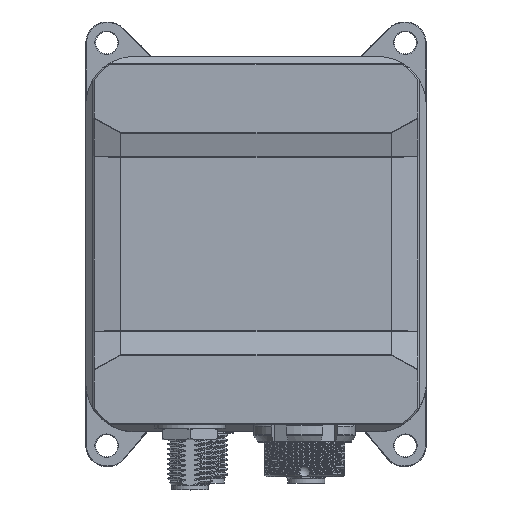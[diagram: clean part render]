
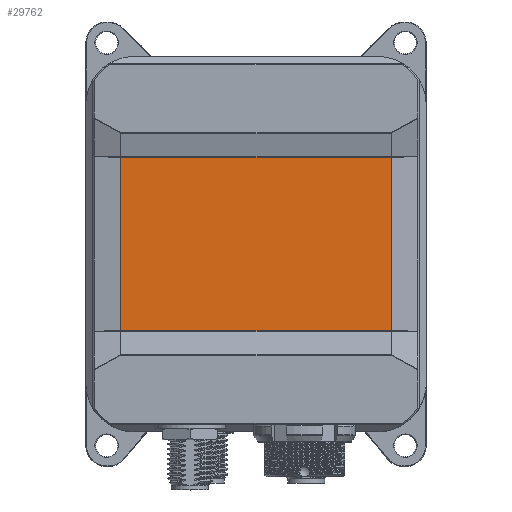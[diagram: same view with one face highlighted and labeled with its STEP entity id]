
A CAD part, top view. The second image highlights one B-rep face of the part: STEP entity #29762.
In plain terms, the highlighted planar face has unit normal (0, 0, 1) as drawn and (0, -1, 0) by its records, which use the part's own axes.
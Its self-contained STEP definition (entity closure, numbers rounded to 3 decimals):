
#2843=FACE_OUTER_BOUND('',#4605,.T.);
#4605=EDGE_LOOP('',(#19641,#19642,#19643,#19644));
#6457=LINE('',#43536,#8486);
#6459=LINE('',#43545,#8488);
#6460=LINE('',#43546,#8489);
#6461=LINE('',#43547,#8490);
#8486=VECTOR('',#34994,10.);
#8488=VECTOR('',#35002,10.);
#8489=VECTOR('',#35003,10.);
#8490=VECTOR('',#35004,10.);
#11839=VERTEX_POINT('',#43534);
#11840=VERTEX_POINT('',#43535);
#11843=VERTEX_POINT('',#43543);
#11844=VERTEX_POINT('',#43544);
#14905=EDGE_CURVE('',#11839,#11840,#6457,.T.);
#14909=EDGE_CURVE('',#11843,#11844,#6459,.T.);
#14910=EDGE_CURVE('',#11840,#11843,#6460,.T.);
#14911=EDGE_CURVE('',#11844,#11839,#6461,.T.);
#19641=ORIENTED_EDGE('',*,*,#14909,.F.);
#19642=ORIENTED_EDGE('',*,*,#14910,.F.);
#19643=ORIENTED_EDGE('',*,*,#14905,.F.);
#19644=ORIENTED_EDGE('',*,*,#14911,.F.);
#29090=PLANE('',#31723);
#29762=ADVANCED_FACE('',(#2843),#29090,.F.);
#31723=AXIS2_PLACEMENT_3D('',#43542,#35000,#35001);
#34994=DIRECTION('',(-1.,0.,0.));
#35000=DIRECTION('center_axis',(0.,1.,0.));
#35001=DIRECTION('ref_axis',(0.,0.,1.));
#35002=DIRECTION('',(1.,0.,0.));
#35003=DIRECTION('',(0.,0.,1.));
#35004=DIRECTION('',(0.,0.,-1.));
#43534=CARTESIAN_POINT('',(42.981,1.,-38.477));
#43535=CARTESIAN_POINT('',(4.019,1.,-38.477));
#43536=CARTESIAN_POINT('',(0.,1.,-38.477));
#43542=CARTESIAN_POINT('Origin',(0.,1.,-40.513));
#43543=CARTESIAN_POINT('',(4.019,1.,-13.523));
#43544=CARTESIAN_POINT('',(42.981,1.,-13.523));
#43545=CARTESIAN_POINT('',(0.,1.,-13.523));
#43546=CARTESIAN_POINT('',(4.019,1.,-43.384));
#43547=CARTESIAN_POINT('',(42.981,1.,-30.384));
